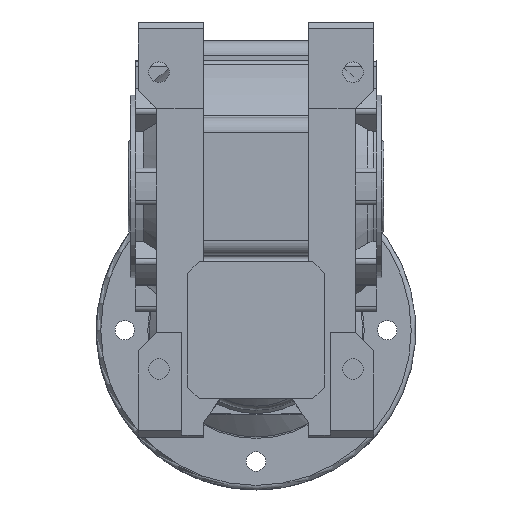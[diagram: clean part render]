
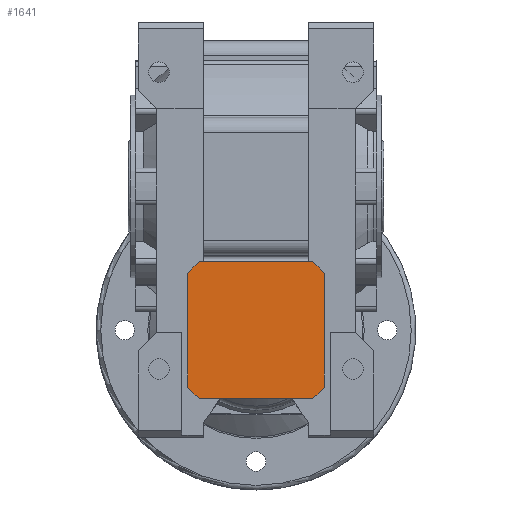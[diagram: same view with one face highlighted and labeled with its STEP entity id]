
A CAD part, front view. The second image highlights one B-rep face of the part: STEP entity #1641.
In plain terms, the highlighted planar face has unit normal (0, -1, 0).
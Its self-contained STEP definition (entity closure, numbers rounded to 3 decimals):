
#1641 = ADVANCED_FACE( '', ( #3678 ), #3679, .F. );
#3678 = FACE_OUTER_BOUND( '', #6098, .T. );
#3679 = PLANE( '', #6099 );
#6098 = EDGE_LOOP( '', ( #10919, #10920, #10921, #10922, #10923, #10924, #10925, #10926 ) );
#6099 = AXIS2_PLACEMENT_3D( '', #10927, #10928, #10929 );
#10919 = ORIENTED_EDGE( '', *, *, #15845, .F. );
#10920 = ORIENTED_EDGE( '', *, *, #14487, .F. );
#10921 = ORIENTED_EDGE( '', *, *, #14431, .F. );
#10922 = ORIENTED_EDGE( '', *, *, #15846, .F. );
#10923 = ORIENTED_EDGE( '', *, *, #14694, .F. );
#10924 = ORIENTED_EDGE( '', *, *, #14744, .F. );
#10925 = ORIENTED_EDGE( '', *, *, #15529, .F. );
#10926 = ORIENTED_EDGE( '', *, *, #15267, .F. );
#10927 = CARTESIAN_POINT( '', ( 0., -135., -138. ) );
#10928 = DIRECTION( '', ( 0., 1., 0. ) );
#10929 = DIRECTION( '', ( 0., 0., 1. ) );
#14431 = EDGE_CURVE( '', #17505, #17507, #17508, .T. );
#14487 = EDGE_CURVE( '', #17507, #17599, #17600, .T. );
#14694 = EDGE_CURVE( '', #17944, #17946, #17947, .T. );
#14744 = EDGE_CURVE( '', #18018, #17944, #18020, .T. );
#15267 = EDGE_CURVE( '', #18828, #18830, #18831, .T. );
#15529 = EDGE_CURVE( '', #18830, #18018, #19215, .T. );
#15845 = EDGE_CURVE( '', #17599, #18828, #19631, .T. );
#15846 = EDGE_CURVE( '', #17946, #17505, #19632, .T. );
#17505 = VERTEX_POINT( '', #22201 );
#17507 = VERTEX_POINT( '', #22204 );
#17508 = CIRCLE( '', #22205, 39. );
#17599 = VERTEX_POINT( '', #22385 );
#17600 = LINE( '', #22386, #22387 );
#17944 = VERTEX_POINT( '', #23121 );
#17946 = VERTEX_POINT( '', #23124 );
#17947 = CIRCLE( '', #23125, 39. );
#18018 = VERTEX_POINT( '', #23298 );
#18020 = LINE( '', #23301, #23302 );
#18828 = VERTEX_POINT( '', #24878 );
#18830 = VERTEX_POINT( '', #24881 );
#18831 = LINE( '', #24882, #24883 );
#19215 = CIRCLE( '', #25594, 39. );
#19631 = CIRCLE( '', #26452, 39. );
#19632 = LINE( '', #26453, #26454 );
#22201 = CARTESIAN_POINT( '', ( 24.92, -135., -108. ) );
#22204 = CARTESIAN_POINT( '', ( 30., -135., -113.08 ) );
#22205 = AXIS2_PLACEMENT_3D( '', #28790, #28791, #28792 );
#22385 = CARTESIAN_POINT( '', ( 30., -135., -162.92 ) );
#22386 = CARTESIAN_POINT( '', ( 30., -135., -113.08 ) );
#22387 = VECTOR( '', #28864, 1000. );
#23121 = CARTESIAN_POINT( '', ( -30., -135., -113.08 ) );
#23124 = CARTESIAN_POINT( '', ( -24.92, -135., -108. ) );
#23125 = AXIS2_PLACEMENT_3D( '', #29132, #29133, #29134 );
#23298 = CARTESIAN_POINT( '', ( -30., -135., -162.92 ) );
#23301 = CARTESIAN_POINT( '', ( -30., -135., -113.08 ) );
#23302 = VECTOR( '', #29181, 1000. );
#24878 = CARTESIAN_POINT( '', ( 24.92, -135., -168. ) );
#24881 = CARTESIAN_POINT( '', ( -24.92, -135., -168. ) );
#24882 = CARTESIAN_POINT( '', ( 24.92, -135., -168. ) );
#24883 = VECTOR( '', #29783, 1000. );
#25594 = AXIS2_PLACEMENT_3D( '', #30057, #30058, #30059 );
#26452 = AXIS2_PLACEMENT_3D( '', #30352, #30353, #30354 );
#26453 = CARTESIAN_POINT( '', ( 24.92, -135., -108. ) );
#26454 = VECTOR( '', #30355, 1000. );
#28790 = CARTESIAN_POINT( '', ( 0., -135., -138. ) );
#28791 = DIRECTION( '', ( 0., 1., 0. ) );
#28792 = DIRECTION( '', ( -1., 0., 0. ) );
#28864 = DIRECTION( '', ( 0., 0., -1. ) );
#29132 = CARTESIAN_POINT( '', ( 0., -135., -138. ) );
#29133 = DIRECTION( '', ( 0., 1., 0. ) );
#29134 = DIRECTION( '', ( -1., 0., 0. ) );
#29181 = DIRECTION( '', ( 0., 0., 1. ) );
#29783 = DIRECTION( '', ( -1., 0., 0. ) );
#30057 = CARTESIAN_POINT( '', ( 0., -135., -138. ) );
#30058 = DIRECTION( '', ( 0., 1., 0. ) );
#30059 = DIRECTION( '', ( -1., 0., 0. ) );
#30352 = CARTESIAN_POINT( '', ( 0., -135., -138. ) );
#30353 = DIRECTION( '', ( 0., 1., 0. ) );
#30354 = DIRECTION( '', ( -1., 0., 0. ) );
#30355 = DIRECTION( '', ( 1., 0., 0. ) );
